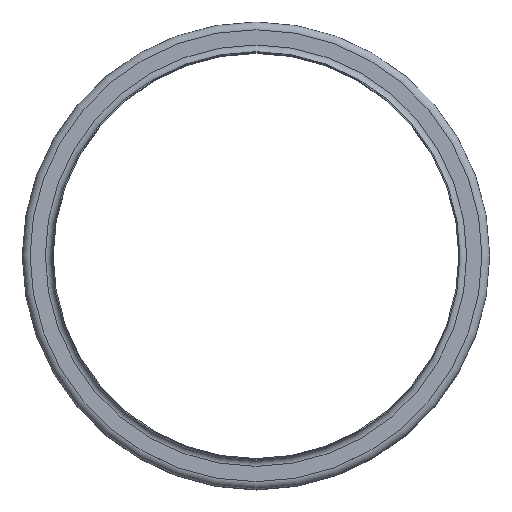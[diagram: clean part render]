
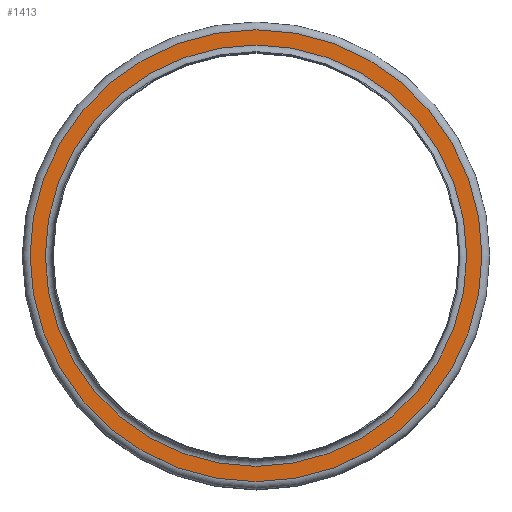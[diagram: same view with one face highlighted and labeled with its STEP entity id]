
A CAD part, top view. The second image highlights one B-rep face of the part: STEP entity #1413.
In plain terms, the highlighted planar face has unit normal (0, 0, 1).
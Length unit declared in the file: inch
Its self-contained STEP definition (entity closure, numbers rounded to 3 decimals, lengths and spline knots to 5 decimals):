
#127=FACE_BOUND('',#381,.T.);
#226=FACE_OUTER_BOUND('',#380,.T.);
#380=EDGE_LOOP('',(#1105));
#381=EDGE_LOOP('',(#1106));
#542=CIRCLE('',#1682,7.268);
#543=CIRCLE('',#1684,7.7945);
#655=VERTEX_POINT('',#2578);
#656=VERTEX_POINT('',#2582);
#808=EDGE_CURVE('',#655,#655,#542,.T.);
#809=EDGE_CURVE('',#656,#656,#543,.T.);
#1105=ORIENTED_EDGE('',*,*,#809,.F.);
#1106=ORIENTED_EDGE('',*,*,#808,.T.);
#1203=PLANE('',#1683);
#1413=ADVANCED_FACE('',(#226,#127),#1203,.T.);
#1682=AXIS2_PLACEMENT_3D('',#2580,#2178,#2179);
#1683=AXIS2_PLACEMENT_3D('',#2581,#2180,#2181);
#1684=AXIS2_PLACEMENT_3D('',#2583,#2182,#2183);
#2178=DIRECTION('center_axis',(0.,0.,-1.));
#2179=DIRECTION('ref_axis',(1.,0.,0.));
#2180=DIRECTION('center_axis',(0.,0.,1.));
#2181=DIRECTION('ref_axis',(1.,0.,0.));
#2182=DIRECTION('center_axis',(0.,0.,-1.));
#2183=DIRECTION('ref_axis',(1.,0.,0.));
#2578=CARTESIAN_POINT('',(7.268,0.,-0.232));
#2580=CARTESIAN_POINT('Origin',(0.,0.,-0.232));
#2581=CARTESIAN_POINT('Origin',(0.,7.7945,-0.232));
#2582=CARTESIAN_POINT('',(7.7945,0.,-0.232));
#2583=CARTESIAN_POINT('Origin',(0.,0.,-0.232));
